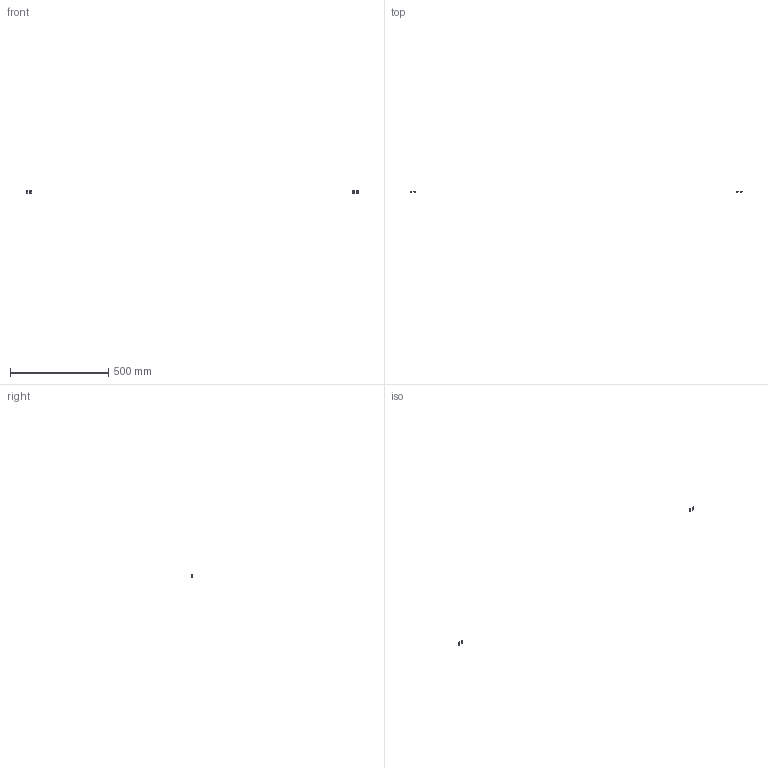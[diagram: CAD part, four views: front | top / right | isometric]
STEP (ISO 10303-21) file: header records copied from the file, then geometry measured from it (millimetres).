
FILE_DESCRIPTION(/* description */ (''),/* implementation_level */ '2;1');
FILE_NAME(/* name */ '4.frame-door#4.8#HNTPZ5-5',/* time_stamp */ '2014-12-01T20:13:07+01:00',/* author */ (''),/* organization */ (''),/* preprocessor_version */ 'ST-DEVELOPER v14',/* originating_system */ '',/* authorisation */ '');
FILE_SCHEMA (('AUTOMOTIVE_DESIGN'));
Length unit declared in the file: millimetre
Products named in the file (2): Document; nut tslot, post, M5
Assembly tree (2 placements, depth 2):
  Document
    nut tslot, post, M5  x2
Bounding box: 1688.3 x 3.8 x 17 mm (x, y, z)
Volume: 1260.1 mm3; surface area: 1678.2 mm2
Topology: 4 solids, 4 shells, 52 faces, 144 edges, 96 vertices
Faces by surface type: plane 44, bspline 8
Entity records: 2913 total; most frequent: CARTESIAN_POINT 1373, B_SPLINE_CURVE_WITH_KNOTS 300, ORIENTED_EDGE 216, PCURVE 216, DEFINITIONAL_REPRESENTATION 216, SURFACE_CURVE 108, EDGE_CURVE 108, VERTEX_POINT 72
